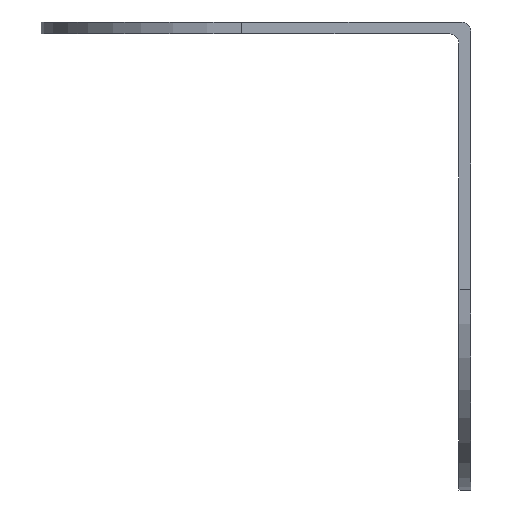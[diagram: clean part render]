
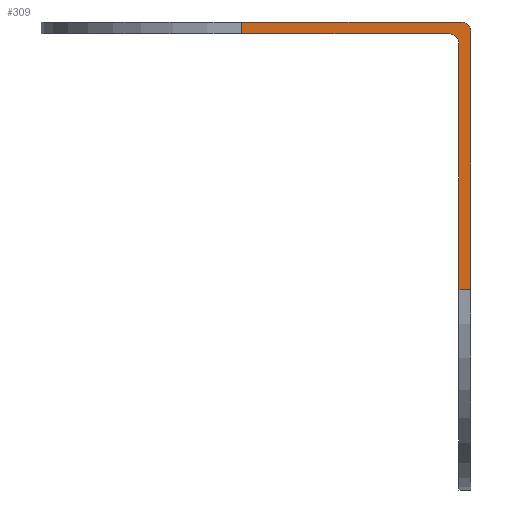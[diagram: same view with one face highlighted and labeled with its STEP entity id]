
A CAD part, left-side view. The second image highlights one B-rep face of the part: STEP entity #309.
In plain terms, the highlighted planar face has unit normal (-1, 0, 0).
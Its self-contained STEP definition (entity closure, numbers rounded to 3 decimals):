
#34 = EDGE_CURVE ( 'NONE', #805, #247, #1536, .T. ) ;
#39 = VERTEX_POINT ( 'NONE', #87 ) ;
#64 = CARTESIAN_POINT ( 'NONE',  ( 0., 1.25, -28. ) ) ;
#67 = EDGE_CURVE ( 'NONE', #1004, #851, #1448, .T. ) ;
#87 = CARTESIAN_POINT ( 'NONE',  ( 0., 0., -28. ) ) ;
#114 = DIRECTION ( 'NONE',  ( 0., 1., 0. ) ) ;
#116 = ORIENTED_EDGE ( 'NONE', *, *, #1648, .F. ) ;
#164 = AXIS2_PLACEMENT_3D ( 'NONE', #1354, #581, #712 ) ;
#247 = VERTEX_POINT ( 'NONE', #1580 ) ;
#262 = DIRECTION ( 'NONE',  ( 0., -1., 0. ) ) ;
#263 = ORIENTED_EDGE ( 'NONE', *, *, #776, .F. ) ;
#295 = VECTOR ( 'NONE', #262, 1000. ) ;
#309 = ADVANCED_FACE ( 'NONE', ( #672 ), #1186, .T. ) ;
#342 = VECTOR ( 'NONE', #447, 1000. ) ;
#376 = DIRECTION ( 'NONE',  ( 0., -1., 0. ) ) ;
#408 = DIRECTION ( 'NONE',  ( -1., 0., 0. ) ) ;
#447 = DIRECTION ( 'NONE',  ( 0., 0., -1. ) ) ;
#479 = VECTOR ( 'NONE', #376, 1000. ) ;
#491 = CARTESIAN_POINT ( 'NONE',  ( 0., 1.25, -28. ) ) ;
#545 = CARTESIAN_POINT ( 'NONE',  ( 0., 0., 0. ) ) ;
#557 = CARTESIAN_POINT ( 'NONE',  ( 0., 24., -1.25 ) ) ;
#575 = DIRECTION ( 'NONE',  ( 0., 0., -1. ) ) ;
#581 = DIRECTION ( 'NONE',  ( 1., 0., 0. ) ) ;
#586 = ORIENTED_EDGE ( 'NONE', *, *, #749, .T. ) ;
#590 = CARTESIAN_POINT ( 'NONE',  ( 0., 1., -1. ) ) ;
#606 = VERTEX_POINT ( 'NONE', #1463 ) ;
#672 = FACE_OUTER_BOUND ( 'NONE', #1595, .T. ) ;
#707 = LINE ( 'NONE', #557, #751 ) ;
#712 = DIRECTION ( 'NONE',  ( 0., 0., 1. ) ) ;
#728 = VERTEX_POINT ( 'NONE', #1171 ) ;
#749 = EDGE_CURVE ( 'NONE', #1283, #39, #1546, .T. ) ;
#751 = VECTOR ( 'NONE', #575, 1000. ) ;
#763 = LINE ( 'NONE', #1280, #342 ) ;
#776 = EDGE_CURVE ( 'NONE', #728, #851, #1042, .T. ) ;
#805 = VERTEX_POINT ( 'NONE', #1282 ) ;
#851 = VERTEX_POINT ( 'NONE', #1525 ) ;
#874 = LINE ( 'NONE', #1248, #1295 ) ;
#882 = LINE ( 'NONE', #1390, #1030 ) ;
#913 = DIRECTION ( 'NONE',  ( 0., 0., 1. ) ) ;
#963 = ORIENTED_EDGE ( 'NONE', *, *, #67, .T. ) ;
#978 = ORIENTED_EDGE ( 'NONE', *, *, #34, .T. ) ;
#1004 = VERTEX_POINT ( 'NONE', #1097 ) ;
#1030 = VECTOR ( 'NONE', #114, 1000. ) ;
#1034 = CARTESIAN_POINT ( 'NONE',  ( 0., 0., 0. ) ) ;
#1042 = LINE ( 'NONE', #1034, #295 ) ;
#1097 = CARTESIAN_POINT ( 'NONE',  ( 0., 0., -1. ) ) ;
#1108 = DIRECTION ( 'NONE',  ( -1., 0., 0. ) ) ;
#1134 = ORIENTED_EDGE ( 'NONE', *, *, #1365, .F. ) ;
#1171 = CARTESIAN_POINT ( 'NONE',  ( 0., 24., 0. ) ) ;
#1186 = PLANE ( 'NONE',  #1206 ) ;
#1206 = AXIS2_PLACEMENT_3D ( 'NONE', #545, #408, #913 ) ;
#1248 = CARTESIAN_POINT ( 'NONE',  ( 0., 1.25, -1.25 ) ) ;
#1280 = CARTESIAN_POINT ( 'NONE',  ( 0., 0., -49. ) ) ;
#1282 = CARTESIAN_POINT ( 'NONE',  ( 0., 2.25, -1.25 ) ) ;
#1283 = VERTEX_POINT ( 'NONE', #64 ) ;
#1284 = EDGE_CURVE ( 'NONE', #728, #606, #707, .T. ) ;
#1295 = VECTOR ( 'NONE', #1397, 1000. ) ;
#1354 = CARTESIAN_POINT ( 'NONE',  ( 0., 2.25, -2.25 ) ) ;
#1365 = EDGE_CURVE ( 'NONE', #805, #606, #882, .T. ) ;
#1390 = CARTESIAN_POINT ( 'NONE',  ( 0., 45., -1.25 ) ) ;
#1397 = DIRECTION ( 'NONE',  ( 0., 0., 1. ) ) ;
#1409 = ORIENTED_EDGE ( 'NONE', *, *, #1284, .T. ) ;
#1448 = CIRCLE ( 'NONE', #1542, 1. ) ;
#1463 = CARTESIAN_POINT ( 'NONE',  ( 0., 24., -1.25 ) ) ;
#1474 = EDGE_CURVE ( 'NONE', #1283, #247, #874, .T. ) ;
#1525 = CARTESIAN_POINT ( 'NONE',  ( 0., 1., 0. ) ) ;
#1536 = CIRCLE ( 'NONE', #164, 1. ) ;
#1541 = DIRECTION ( 'NONE',  ( 0., 0., 1. ) ) ;
#1542 = AXIS2_PLACEMENT_3D ( 'NONE', #590, #1108, #1541 ) ;
#1546 = LINE ( 'NONE', #491, #479 ) ;
#1580 = CARTESIAN_POINT ( 'NONE',  ( 0., 1.25, -2.25 ) ) ;
#1595 = EDGE_LOOP ( 'NONE', ( #1642, #586, #116, #963, #263, #1409, #1134, #978 ) ) ;
#1642 = ORIENTED_EDGE ( 'NONE', *, *, #1474, .F. ) ;
#1648 = EDGE_CURVE ( 'NONE', #1004, #39, #763, .T. ) ;
